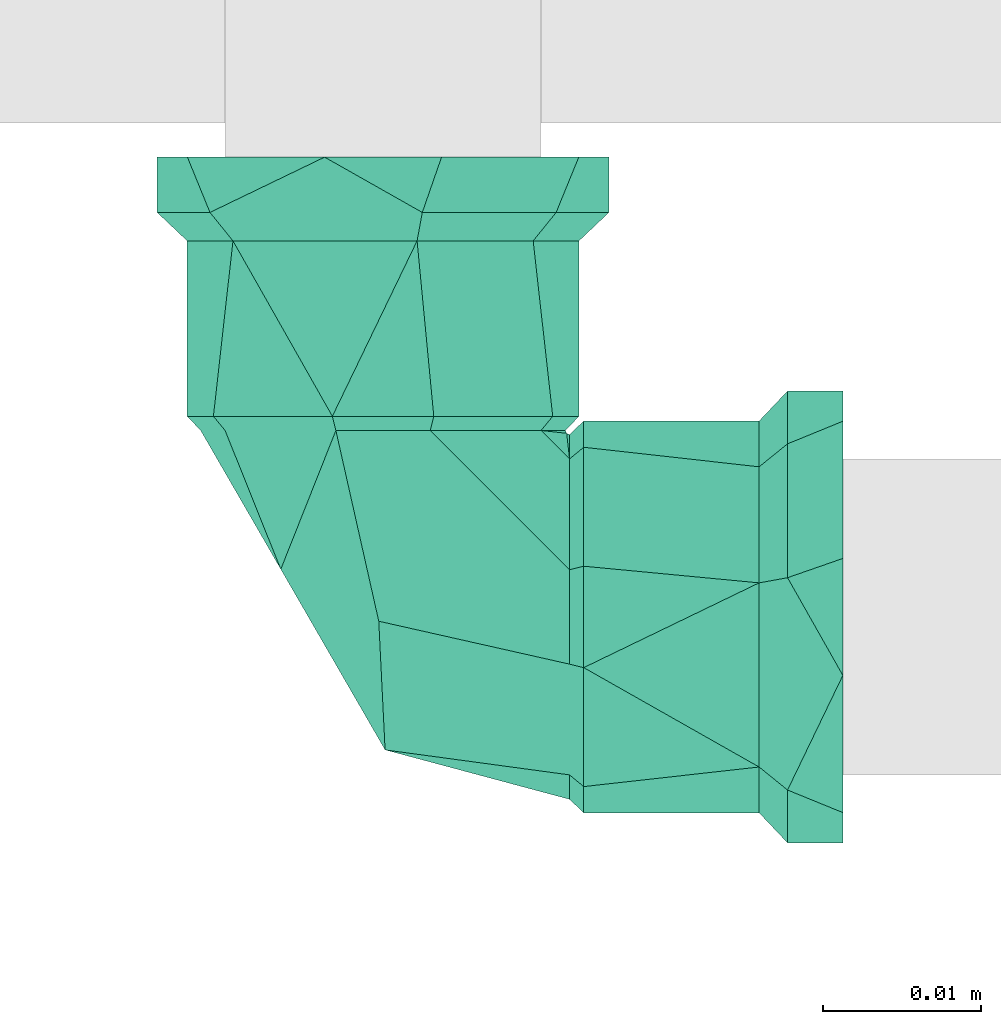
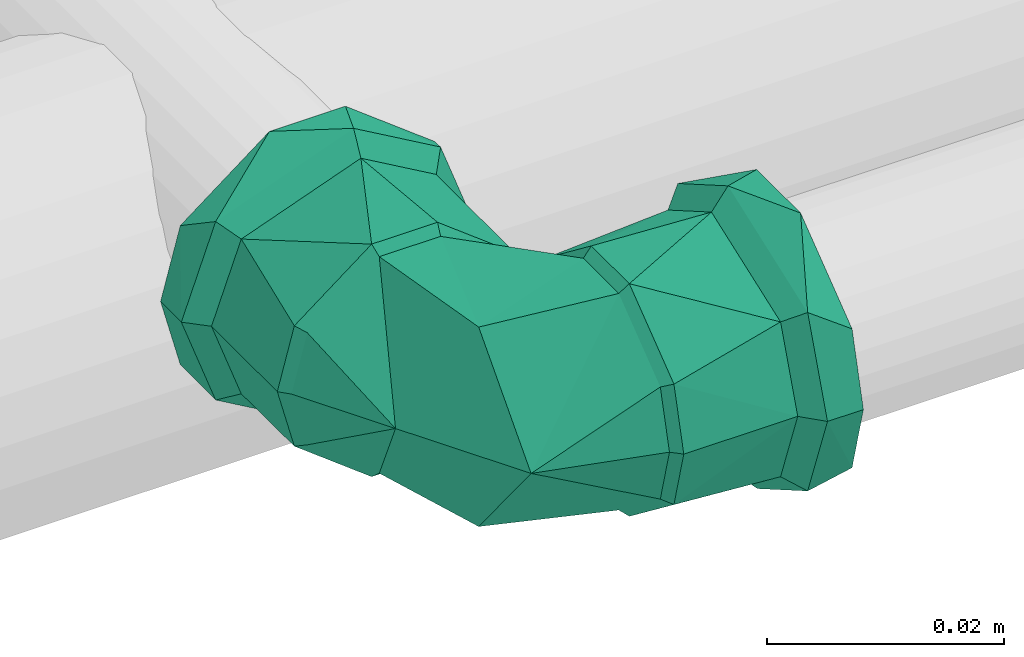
# One storey, part 308 of 589: 1 flow fitting.
"""IFC2X3 building model written with IfcOpenShell, lengths in millimetres."""

import ifcopenshell
import ifcopenshell.guid

model = None  # the IFC model being written
_history = None  # IfcOwnerHistory: only IFC2X3 demands one
_inside = {}  # id of a spatial element -> (the spatial element, [elements in it])
_under = {}  # id of a project, library or spatial element -> (it, [spatial elements below it])
_declared = {}  # id of a project -> (the project, [libraries it declares])
_typed = {}  # id of a type object -> (the type object, [elements of that type])
_made_of = {}  # id of a material, layer set ... -> (it, [elements and type objects made of it])


def new_model(schema):
    """Start an empty IFC model of exactly this schema.

    Asked for "IFC4X3", IfcOpenShell would pick the latest addendum, in which some entities
    have other attributes; the version numbers below select the first issue.
    IFC2X3 requires an IfcOwnerHistory on every rooted entity: one is made here for all.
    """
    global model, _history
    if schema == "IFC4X3":
        model = ifcopenshell.file(schema_version=(4, 3, 0, 0))
    else:
        model = ifcopenshell.file(schema=schema)
    _inside.clear()
    _under.clear()
    _declared.clear()
    _typed.clear()
    _made_of.clear()
    _history = None
    if model.schema == "IFC2X3":
        org = make("IfcOrganization", Name="unknown")
        user = make(
            "IfcPersonAndOrganization",
            ThePerson=make("IfcPerson", FamilyName="unknown"),
            TheOrganization=org,
        )
        app = make(
            "IfcApplication",
            ApplicationDeveloper=org,
            Version="unknown",
            ApplicationFullName="unknown",
            ApplicationIdentifier="unknown",
        )
        _history = make(
            "IfcOwnerHistory",
            OwningUser=user,
            OwningApplication=app,
            ChangeAction="ADDED",
            CreationDate=0,
        )
    return model


def make(cls, **values):
    """One entity of the class cls with the attributes given. An attribute that is None is left unset."""
    return model.create_entity(
        cls, **{name: value for name, value in values.items() if value is not None}
    )


def entity(cls, *values):
    """Any entity or typed value of the class cls, its attributes in the order of the schema. None: left unset."""
    e = model.create_entity(cls)
    for i, value in enumerate(values):
        if value is not None:
            e[i] = value
    return e


def rooted(cls, **values):
    """An entity with a GlobalId (a new one), such as an element, a storey or a relation."""
    return make(cls, GlobalId=ifcopenshell.guid.new(), OwnerHistory=_history, **values)


def si_unit(unit_type, name, prefix=None):
    """IfcSIUnit, for example si_unit("LENGTHUNIT", "METRE", prefix="MILLI")."""
    return make("IfcSIUnit", UnitType=unit_type, Prefix=prefix, Name=name)


def converted_unit(unit_type, name, factor, base, dimensions=None, offset=None):
    """IfcConversionBasedUnit, such as the inch: factor (a typed value) times the base unit."""
    return make(
        "IfcConversionBasedUnit"
        if offset is None
        else "IfcConversionBasedUnitWithOffset",
        ConversionOffset=offset,
        Dimensions=None
        if dimensions is None
        else entity("IfcDimensionalExponents", *dimensions),
        UnitType=unit_type,
        Name=name,
        ConversionFactor=make(
            "IfcMeasureWithUnit", ValueComponent=factor, UnitComponent=base
        ),
    )


def derived_unit(unit_type, elements):
    """IfcDerivedUnit: a product of units, each with its exponent."""
    return make(
        "IfcDerivedUnit",
        Elements=[
            make("IfcDerivedUnitElement", Unit=unit, Exponent=power)
            for unit, power in elements
        ],
        UnitType=unit_type,
    )


def assignment(units):
    """IfcUnitAssignment: the units of a project."""
    return None if units is None else make("IfcUnitAssignment", Units=units)


def point(xyz):
    """IfcCartesianPoint."""
    return None if xyz is None else make("IfcCartesianPoint", Coordinates=xyz)


def direction(xyz):
    """IfcDirection."""
    return None if xyz is None else make("IfcDirection", DirectionRatios=xyz)


def frame(location, z_axis=None, x_axis=None):
    """IfcAxis2Placement3D, a coordinate frame: its origin and axes. An axis left out is left unset."""
    return make(
        "IfcAxis2Placement3D",
        Location=point(location),
        Axis=direction(z_axis),
        RefDirection=direction(x_axis),
    )


def origin():
    """The frame at (0, 0, 0) with its axes left unset."""
    return frame((0.0, 0.0, 0.0))


def place(relative_to, where):
    """IfcLocalPlacement: puts the frame where relative to a parent placement (None: the world)."""
    return make(
        "IfcLocalPlacement", PlacementRelTo=relative_to, RelativePlacement=where
    )


def context(
    kind, dimensions, precision=None, world=None, true_north=None, identifier=None
):
    """IfcGeometricRepresentationContext, for example the 3D "Model" context."""
    return make(
        "IfcGeometricRepresentationContext",
        ContextIdentifier=identifier,
        ContextType=kind,
        CoordinateSpaceDimension=dimensions,
        Precision=precision,
        WorldCoordinateSystem=world,
        TrueNorth=true_north,
    )


def subcontext(parent, identifier, kind, view, scale=None):
    """IfcGeometricRepresentationSubContext, for example "Body" below "Model"."""
    return make(
        "IfcGeometricRepresentationSubContext",
        ContextIdentifier=identifier,
        ContextType=kind,
        ParentContext=parent,
        TargetScale=scale,
        TargetView=view,
    )


def project(units=None, contexts=None):
    """IfcProject with its units and contexts."""
    return rooted(
        "IfcProject",
        Name="project",
        RepresentationContexts=contexts,
        UnitsInContext=assignment(units),
    )


def spatial(cls, under=None, at=None, **own):
    """A site, building, storey or space (cls), placed at a placement, below another one or the project."""
    s = rooted(cls, ObjectPlacement=at, **own)
    if under is not None:
        _under.setdefault(under.id(), (under, []))[1].append(s)
    return s


def faces_of(points, faces, orient=None, outer=None):
    """IfcFace entities. A face is a list of loops; a loop is a list of indices into points, from 0.

    orient and outer hold one flag for each loop. By default every Orientation is true, the
    first loop of a face is its IfcFaceOuterBound and the others are IfcFaceBound.
    """
    made = []
    for i, loops in enumerate(faces):
        bounds = []
        for j, loop in enumerate(loops):
            is_outer = j == 0 if outer is None else outer[i][j]
            bounds.append(
                make(
                    "IfcFaceOuterBound" if is_outer else "IfcFaceBound",
                    Bound=make("IfcPolyLoop", Polygon=[points[k] for k in loop]),
                    Orientation=True if orient is None else orient[i][j],
                )
            )
        made.append(make("IfcFace", Bounds=bounds))
    return made


def faceted_brep(points, faces, orient=None, outer=None, voids=None):
    """IfcFacetedBrep: a solid bounded by flat faces; with voids (closed shells), ...WithVoids."""
    shared = [point(p) for p in points]
    hull = make("IfcClosedShell", CfsFaces=faces_of(shared, faces, orient, outer))
    if voids is None:
        return make("IfcFacetedBrep", Outer=hull)
    return make(
        "IfcFacetedBrepWithVoids",
        Outer=hull,
        Voids=[
            make(cls, CfsFaces=faces_of(shared, fs, o, b)) for cls, fs, o, b in voids
        ],
    )


def shape(context_of_items, identifier, shape_type, items):
    """IfcShapeRepresentation: the items that make up one representation, for example the "Body"."""
    return make(
        "IfcShapeRepresentation",
        ContextOfItems=context_of_items,
        RepresentationIdentifier=identifier,
        RepresentationType=shape_type,
        Items=items,
    )


def source(mapping_origin, context_of_items, identifier, shape_type, items):
    """IfcRepresentationMap: a shape defined once, which mapped items show again and again."""
    return make(
        "IfcRepresentationMap",
        MappingOrigin=mapping_origin,
        MappedRepresentation=shape(context_of_items, identifier, shape_type, items),
    )


def transform(
    local_origin,
    x_axis=None,
    y_axis=None,
    z_axis=None,
    scale=None,
    scale2=None,
    scale3=None,
    uniform=True,
):
    """IfcCartesianTransformationOperator3D, or its non-uniform kind. x_axis, y_axis, z_axis: its Axis1, 2, 3."""
    if uniform:
        return make(
            "IfcCartesianTransformationOperator3D",
            Axis1=direction(x_axis),
            Axis2=direction(y_axis),
            LocalOrigin=point(local_origin),
            Scale=scale,
            Axis3=direction(z_axis),
        )
    return make(
        "IfcCartesianTransformationOperator3DnonUniform",
        Axis1=direction(x_axis),
        Axis2=direction(y_axis),
        LocalOrigin=point(local_origin),
        Scale=scale,
        Axis3=direction(z_axis),
        Scale2=scale2,
        Scale3=scale3,
    )


def mapped(mapping_source, mapping_target):
    """IfcMappedItem: shows the shape of a source again, moved by a transform."""
    return make(
        "IfcMappedItem", MappingSource=mapping_source, MappingTarget=mapping_target
    )


def material(Name=None, Category=None):
    """IfcMaterial."""
    return make("IfcMaterial", Name=Name, Category=Category)


def made_of(thing, what):
    """Note that an element or type object is made of a material, layer set ...; save() writes the relation."""
    if what is not None:
        _made_of.setdefault(what.id(), (what, []))[1].append(thing)
    return thing


def type_object(cls, material=None, **own):
    """A type object (cls), such as IfcWallType, which elements share."""
    return made_of(rooted(cls, **own), material)


def type_shapes(of_type, sources):
    """Give a type object the sources (RepresentationMaps) that its elements show as mapped items."""
    of_type.RepresentationMaps = sources


def element(
    cls,
    number,
    at=None,
    inside=None,
    cuts=None,
    type_object=None,
    material=None,
    context=None,
    identifier="Body",
    shape_type=None,
    held_by="IfcProductDefinitionShape",
    body=None,
    shapes=None,
    **own,
):
    """One element of the class cls, such as IfcWall. Its Tag is "e" and its number.

    at: its placement. inside: the storey or other place that contains it. cuts: it is an
    opening in that element (IfcRelVoidsElement). A single representation is given by context,
    identifier, shape_type and body (its items); several are given by shapes. held_by: the class
    of the entity that holds the representations. save() writes the other relations.
    """
    e = rooted(cls, Tag="e%d" % number, ObjectPlacement=at, **own)
    if body is not None:
        shapes = [shape(context, identifier, shape_type, body)]
    if shapes is not None:
        e.Representation = make(held_by, Representations=shapes)
    if inside is not None:
        _inside.setdefault(inside.id(), (inside, []))[1].append(e)
    if cuts is not None:
        rooted(
            "IfcRelVoidsElement", RelatingBuildingElement=cuts, RelatedOpeningElement=e
        )
    if type_object is not None:
        _typed.setdefault(type_object.id(), (type_object, []))[1].append(e)
    return made_of(e, material)


def aggregate(whole, parts):
    """IfcRelAggregates: a whole, such as a stair, and the parts it consists of."""
    return rooted("IfcRelAggregates", RelatingObject=whole, RelatedObjects=parts)


def save(model, path):
    """Write the relations noted so far, then the file.

    IfcRelAggregates (storeys below a building ...), IfcRelContainedInSpatialStructure (elements
    in a storey), IfcRelDefinesByType, IfcRelAssociatesMaterial and IfcRelDeclares: one each for
    every whole, place, type object, material and project.
    """
    for whole, parts in _under.values():
        aggregate(whole, parts)
    for where, things in _inside.values():
        rooted(
            "IfcRelContainedInSpatialStructure",
            RelatedElements=things,
            RelatingStructure=where,
        )
    for kind, things in _typed.values():
        rooted("IfcRelDefinesByType", RelatedObjects=things, RelatingType=kind)
    for what, things in _made_of.values():
        rooted("IfcRelAssociatesMaterial", RelatedObjects=things, RelatingMaterial=what)
    for by, libraries in _declared.values():
        rooted("IfcRelDeclares", RelatingContext=by, RelatedDefinitions=libraries)
    model.write(path)


model = new_model("IFC2X3")

# Units and contexts
model_context = context("Model", 3, precision=0.01, world=origin(), true_north=direction((6.123031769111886e-17, 1.0)))
body_context = subcontext(model_context, "Body", "Model", "MODEL_VIEW")
ifc_project = project(units=[si_unit("LENGTHUNIT", "METRE", prefix="MILLI"), si_unit("AREAUNIT", "SQUARE_METRE"), si_unit("VOLUMEUNIT", "CUBIC_METRE"), converted_unit("PLANEANGLEUNIT", "DEGREE", entity("IfcRatioMeasure", 0.017453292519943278), si_unit("PLANEANGLEUNIT", "RADIAN"), dimensions=[0, 0, 0, 0, 0, 0, 0]), si_unit("MASSUNIT", "GRAM", prefix="KILO"), derived_unit("MASSDENSITYUNIT", [(si_unit("MASSUNIT", "GRAM", prefix="KILO"), 1), (si_unit("LENGTHUNIT", "METRE"), -3)]), derived_unit("IONCONCENTRATIONUNIT", [(si_unit("MASSUNIT", "GRAM", prefix="KILO"), 1), (si_unit("LENGTHUNIT", "METRE"), -3)]), derived_unit("MOMENTOFINERTIAUNIT", [(si_unit("LENGTHUNIT", "METRE"), 4)]), si_unit("TIMEUNIT", "SECOND"), si_unit("FREQUENCYUNIT", "HERTZ"), si_unit("THERMODYNAMICTEMPERATUREUNIT", "DEGREE_CELSIUS"), derived_unit("THERMALTRANSMITTANCEUNIT", [(si_unit("MASSUNIT", "GRAM", prefix="KILO"), 1), (si_unit("THERMODYNAMICTEMPERATUREUNIT", "KELVIN"), -1), (si_unit("TIMEUNIT", "SECOND"), -3)]), derived_unit("THERMALCONDUCTANCEUNIT", [(si_unit("MASSUNIT", "GRAM", prefix="KILO"), 1), (si_unit("THERMODYNAMICTEMPERATUREUNIT", "KELVIN"), -1), (si_unit("TIMEUNIT", "SECOND"), -3), (si_unit("LENGTHUNIT", "METRE"), 1)]), derived_unit("VOLUMETRICFLOWRATEUNIT", [(si_unit("LENGTHUNIT", "METRE"), 3), (si_unit("TIMEUNIT", "SECOND"), -1)]), derived_unit("MASSFLOWRATEUNIT", [(si_unit("MASSUNIT", "GRAM", prefix="KILO"), 1), (si_unit("TIMEUNIT", "SECOND"), -1)]), derived_unit("ROTATIONALFREQUENCYUNIT", [(si_unit("TIMEUNIT", "SECOND"), -1)]), si_unit("ELECTRICCURRENTUNIT", "AMPERE"), si_unit("ELECTRICVOLTAGEUNIT", "VOLT"), si_unit("POWERUNIT", "WATT"), si_unit("FORCEUNIT", "NEWTON", prefix="KILO"), si_unit("ILLUMINANCEUNIT", "LUX"), si_unit("LUMINOUSFLUXUNIT", "LUMEN"), si_unit("LUMINOUSINTENSITYUNIT", "CANDELA"), derived_unit("USERDEFINED", [(si_unit("MASSUNIT", "GRAM", prefix="KILO"), -1), (si_unit("LENGTHUNIT", "METRE"), -2), (si_unit("TIMEUNIT", "SECOND"), 3), (si_unit("LUMINOUSFLUXUNIT", "LUMEN"), 1)]), derived_unit("USERDEFINED", [(si_unit("MASSUNIT", "GRAM", prefix="KILO"), 1), (si_unit("TIMEUNIT", "SECOND"), -3), (si_unit("LENGTHUNIT", "METRE"), 3), (si_unit("ELECTRICCURRENTUNIT", "AMPERE"), -2)]), derived_unit("SOUNDPOWERUNIT", [(si_unit("MASSUNIT", "GRAM", prefix="KILO"), 1), (si_unit("TIMEUNIT", "SECOND"), -3), (si_unit("LENGTHUNIT", "METRE"), 2)]), derived_unit("SOUNDPRESSUREUNIT", [(si_unit("MASSUNIT", "GRAM", prefix="KILO"), 1), (si_unit("LENGTHUNIT", "METRE"), -1), (si_unit("TIMEUNIT", "SECOND"), -2)]), derived_unit("LINEARVELOCITYUNIT", [(si_unit("LENGTHUNIT", "METRE"), 1), (si_unit("TIMEUNIT", "SECOND"), -1)]), si_unit("PRESSUREUNIT", "PASCAL"), derived_unit("USERDEFINED", [(si_unit("MASSUNIT", "GRAM", prefix="KILO"), 1), (si_unit("LENGTHUNIT", "METRE"), -2), (si_unit("TIMEUNIT", "SECOND"), -2)]), derived_unit("LINEARFORCEUNIT", [(si_unit("MASSUNIT", "GRAM", prefix="KILO"), 1), (si_unit("TIMEUNIT", "SECOND"), -2)]), derived_unit("PLANARFORCEUNIT", [(si_unit("MASSUNIT", "GRAM", prefix="KILO"), 1), (si_unit("LENGTHUNIT", "METRE"), -1), (si_unit("TIMEUNIT", "SECOND"), -2)]), derived_unit("SPECIFICHEATCAPACITYUNIT", [(si_unit("THERMODYNAMICTEMPERATUREUNIT", "KELVIN"), -1), (si_unit("LENGTHUNIT", "METRE"), 2), (si_unit("TIMEUNIT", "SECOND"), -2)]), derived_unit("HEATINGVALUEUNIT", [(si_unit("LENGTHUNIT", "METRE"), 2), (si_unit("TIMEUNIT", "SECOND"), -2)]), derived_unit("VAPORPERMEABILITYUNIT", [(si_unit("LENGTHUNIT", "METRE"), -1), (si_unit("TIMEUNIT", "SECOND"), 1)]), derived_unit("DYNAMICVISCOSITYUNIT", [(si_unit("MASSUNIT", "GRAM", prefix="KILO"), 1), (si_unit("TIMEUNIT", "SECOND"), -1), (si_unit("LENGTHUNIT", "METRE"), -1)]), derived_unit("THERMALEXPANSIONCOEFFICIENTUNIT", [(si_unit("THERMODYNAMICTEMPERATUREUNIT", "KELVIN"), -1)]), derived_unit("MODULUSOFELASTICITYUNIT", [(si_unit("MASSUNIT", "GRAM", prefix="KILO"), 1), (si_unit("LENGTHUNIT", "METRE"), -1), (si_unit("TIMEUNIT", "SECOND"), -2)]), derived_unit("ISOTHERMALMOISTURECAPACITYUNIT", [(si_unit("LENGTHUNIT", "METRE"), 3), (si_unit("MASSUNIT", "GRAM", prefix="KILO"), -1)]), derived_unit("MOISTUREDIFFUSIVITYUNIT", [(si_unit("TIMEUNIT", "SECOND"), -1), (si_unit("LENGTHUNIT", "METRE"), 2)])], contexts=[model_context])

# Site, building, storey
site_placement = place(None, origin())
site = spatial("IfcSite", under=ifc_project, at=site_placement, Name="Default", CompositionType="ELEMENT")
building_placement = place(site_placement, origin())
building = spatial("IfcBuilding", under=site, at=building_placement, CompositionType="ELEMENT")
storey_placement = place(building_placement, frame((0.0, 0.0, 100.0)))
storey = spatial("IfcBuildingStorey", under=building, at=storey_placement, Name="TÉRREO", CompositionType="ELEMENT", Elevation=100.0)

# Flow fitting
ifc_material = material(Name="PVC Marrom")
pipe_fitting_type = type_object("IfcPipeFittingType", Name="PVC Marrom Soldável_Joelho 45°_90°_Rodrigo MEP:Joelho", PredefinedType="NOTDEFINED", material=ifc_material)
shared_shape = source(origin(), body_context, "Body", "Brep", [
    faceted_brep([(3.2093561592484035, 12.700000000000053, 11.977480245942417), (10.73871500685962, 12.700000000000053, 6.199999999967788), (12.399999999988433, 12.700000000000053, 0.0), (10.738715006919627, 12.700000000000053, -6.200000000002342), (3.209356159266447, 12.700000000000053, -11.977480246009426), (-3.209356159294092, 12.700000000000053, -11.977480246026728), (-10.738715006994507, 12.700000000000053, -6.200000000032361), (-12.400000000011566, 12.700000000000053, 0.0), (-10.738715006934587, 12.700000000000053, 6.19999999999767), (-3.209356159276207, 12.700000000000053, 11.977480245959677), (-2.9880658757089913, 11.799999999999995, 11.151613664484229), (-9.998263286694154, 11.799999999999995, 5.772499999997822), (-11.545000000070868, 11.799999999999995, 0.0), (-9.998263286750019, 11.799999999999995, -5.772500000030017), (-2.9880658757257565, 11.799999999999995, -11.151613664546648), (2.9880658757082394, 11.799999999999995, -11.151613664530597), (9.998263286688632, 11.799999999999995, -5.77250000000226), (11.544999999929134, 11.799999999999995, 0.0), (9.998263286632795, 11.799999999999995, 5.7724999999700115), (2.9880658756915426, 11.799999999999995, 11.15161366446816)], [[[0, 1, 2, 3, 4, 5, 6, 7, 8, 9]], [[10, 11, 12, 13, 14, 15, 16, 17, 18, 19]], [[3, 17, 16]], [[4, 3, 16, 15]], [[3, 2, 17]], [[15, 14, 5, 4]], [[6, 5, 14, 13]], [[7, 13, 12]], [[7, 6, 13]], [[8, 12, 11]], [[9, 8, 11, 10]], [[8, 7, 12]], [[10, 19, 0, 9]], [[1, 0, 19, 18]], [[2, 18, 17]], [[2, 1, 18]]]),
    faceted_brep([(-12.699999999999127, 12.4, 0.0), (-12.699999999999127, 10.738715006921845, -6.199999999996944), (-12.699999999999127, 3.2093561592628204, -11.977480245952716), (-12.699999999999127, -3.2093561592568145, -11.977480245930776), (-12.699999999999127, -10.73871500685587, -6.199999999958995), (-12.699999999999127, -12.4, 0.0), (-12.699999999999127, -10.738715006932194, 6.200000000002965), (-12.699999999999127, -3.2093561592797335, 11.977480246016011), (-12.699999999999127, 3.20935615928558, 11.977480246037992), (-12.699999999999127, 10.738715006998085, 6.200000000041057), (-11.799999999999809, -9.998263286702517, 5.772500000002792), (-11.799999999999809, -11.54499999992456, 0.0), (-11.799999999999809, -9.998263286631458, -5.772499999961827), (-11.799999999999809, -2.9880658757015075, -11.151613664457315), (-11.799999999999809, 2.9880658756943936, -11.151613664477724), (-11.799999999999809, 9.998263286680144, -5.772499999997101), (-11.799999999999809, 11.54500000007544, 0.0), (-11.799999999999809, 9.998263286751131, 5.772500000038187), (-11.799999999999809, 2.988065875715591, 11.151613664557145), (-11.799999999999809, -2.9880658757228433, 11.151613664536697)], [[[0, 1, 2, 3, 4, 5, 6, 7, 8, 9]], [[10, 11, 12, 13, 14, 15, 16, 17, 18, 19]], [[1, 16, 15]], [[2, 1, 15, 14]], [[1, 0, 16]], [[14, 13, 3, 2]], [[4, 3, 13, 12]], [[5, 12, 11]], [[5, 4, 12]], [[6, 11, 10]], [[7, 6, 10, 19]], [[6, 5, 11]], [[19, 18, 8, 7]], [[9, 8, 18, 17]], [[0, 17, 16]], [[0, 9, 17]]]),
    faceted_brep([(-29.099999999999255, -3.7011123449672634, -13.812739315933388), (-29.099999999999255, -5.0, -8.660254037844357), (-29.099999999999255, 0.0, -10.0), (-29.099999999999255, -12.384163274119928, -7.149999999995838), (-29.099999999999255, 3.7011123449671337, -13.812739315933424), (-29.099999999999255, -9.659258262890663, -2.5881904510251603), (-29.099999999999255, -14.29999999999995, 0.0), (-29.099999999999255, -9.65925826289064, 2.5881904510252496), (-29.099999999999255, -12.384163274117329, 7.1500000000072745), (-29.099999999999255, -5.0, 8.660254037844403), (-29.099999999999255, -3.70111234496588, 13.8127393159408), (-29.099999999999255, 0.0, 10.0), (-29.099999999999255, 3.701112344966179, 13.812739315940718), (-29.099999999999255, 5.0, 8.660254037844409), (-29.099999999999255, 12.384163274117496, 7.15000000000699), (-29.099999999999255, 9.6592582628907, 2.588190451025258), (-29.099999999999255, 14.300000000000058, 0.0), (-29.099999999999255, 9.659258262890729, -2.5881904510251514), (-29.099999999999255, 12.384163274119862, -7.1499999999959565), (-29.099999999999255, 5.0, -8.660254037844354), (-25.599999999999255, 14.29999999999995, 0.0), (-25.599999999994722, 10.953923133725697, 9.19247344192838), (-25.599999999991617, 2.4815988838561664, 14.083027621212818), (-25.59999999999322, -10.956228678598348, 9.18972541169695), (-25.599999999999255, -14.29999999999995, 0.0), (-25.600000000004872, -10.956228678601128, -9.189725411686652), (-25.600000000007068, -2.4851314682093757, -14.082404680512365), (-25.600000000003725, 10.953923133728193, -9.192473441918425), (-23.799999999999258, -12.399999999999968, 0.0), (-23.79999999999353, -9.500505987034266, 7.968712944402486), (-23.799999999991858, 2.151875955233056, 12.211856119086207), (-23.799999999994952, 9.49850677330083, 7.971095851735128), (-23.799999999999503, 12.399999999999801, 0.0), (-23.799999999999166, 9.498506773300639, -7.971095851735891), (-23.799999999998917, -2.1549391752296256, -12.211315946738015), (-23.7999999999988, -9.500505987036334, -7.968712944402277), (-12.699999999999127, 0.0, -10.0), (-12.699999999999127, -5.0, -8.660254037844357), (-12.699999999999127, -3.209356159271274, -11.977480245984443), (-12.699999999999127, 3.2093561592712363, -11.977480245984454), (-12.699999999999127, 5.0, -8.660254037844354), (-12.699999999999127, -10.738715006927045, -6.199999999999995), (-12.699999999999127, -9.659258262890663, -2.5881904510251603), (-12.699999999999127, -12.400000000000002, 0.0), (-12.699999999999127, -9.65925826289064, 2.5881904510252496), (-12.699999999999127, -10.738715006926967, 6.200000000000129), (-12.699999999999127, -5.0, 8.660254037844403), (-12.699999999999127, -3.209356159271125, 11.977480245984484), (-12.699999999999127, 0.0, 10.0), (-12.699999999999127, 3.209356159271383, 11.977480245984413), (-12.699999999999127, 5.0, 8.660254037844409), (-12.699999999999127, 10.738715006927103, 6.199999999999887), (-12.699999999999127, 9.6592582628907, 2.588190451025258), (-12.699999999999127, 12.399999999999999, 0.0), (-12.699999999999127, 9.659258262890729, -2.5881904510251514), (-12.699999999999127, 10.738715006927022, -6.200000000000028)], [[[0, 1, 2]], [[1, 0, 3]], [[2, 4, 0]], [[3, 5, 1]], [[3, 6, 5]], [[5, 6, 7]], [[8, 7, 6]], [[7, 8, 9]], [[10, 9, 8]], [[9, 10, 11]], [[11, 10, 12]], [[12, 13, 11]], [[14, 13, 12]], [[13, 14, 15]], [[16, 15, 14]], [[16, 17, 15]], [[18, 17, 16]], [[19, 17, 18]], [[19, 18, 4]], [[4, 2, 19]], [[16, 14, 20]], [[14, 21, 20]], [[21, 14, 12]], [[21, 12, 22]], [[23, 10, 8]], [[24, 8, 6]], [[10, 23, 22]], [[23, 8, 24]], [[10, 22, 12]], [[6, 3, 24]], [[3, 25, 24]], [[25, 3, 0]], [[25, 0, 26]], [[27, 4, 18]], [[20, 18, 16]], [[27, 26, 4]], [[20, 27, 18]], [[4, 26, 0]], [[28, 29, 23, 24]], [[23, 29, 30, 22]], [[31, 32, 20, 21]], [[31, 21, 22, 30]], [[32, 33, 27, 20]], [[27, 33, 34, 26]], [[35, 28, 24, 25]], [[35, 25, 26, 34]], [[36, 37, 38]], [[38, 39, 36]], [[40, 36, 39]], [[41, 38, 37]], [[37, 42, 41]], [[42, 43, 41]], [[44, 43, 42]], [[43, 44, 45]], [[46, 45, 44]], [[45, 46, 47]], [[48, 47, 46]], [[49, 47, 48]], [[48, 50, 49]], [[49, 50, 51]], [[52, 51, 50]], [[51, 52, 53]], [[52, 54, 53]], [[55, 54, 40]], [[53, 54, 55]], [[39, 55, 40]], [[32, 31, 51]], [[32, 51, 53]], [[51, 31, 49]], [[31, 30, 49]], [[47, 30, 29]], [[45, 29, 28]], [[29, 45, 47]], [[45, 28, 43]], [[30, 47, 49]], [[28, 35, 41]], [[28, 41, 43]], [[41, 35, 38]], [[35, 34, 38]], [[39, 34, 33]], [[55, 33, 32]], [[33, 55, 39]], [[55, 32, 53]], [[34, 39, 38]], [[9, 11, 48, 46]], [[7, 9, 46, 44]], [[44, 42, 5, 7]], [[1, 5, 42, 37]], [[2, 1, 37, 36]], [[19, 2, 36, 40]], [[17, 19, 40, 54]], [[54, 52, 15, 17]], [[13, 15, 52, 50]], [[11, 13, 50, 48]]]),
    faceted_brep([(-11.79999999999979, 2.9880658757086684, -11.15161366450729), (-11.799999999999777, -2.988065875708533, -11.1516136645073), (-11.799999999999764, -9.998263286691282, -5.772500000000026), (-11.799999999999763, -11.544999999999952, 0.0), (-11.799999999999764, -9.998263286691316, 5.772499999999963), (-11.799999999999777, -2.988065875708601, 11.15161366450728), (-11.79999999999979, 2.9880658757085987, 11.151613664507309), (-11.799999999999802, 9.998263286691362, 5.7725000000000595), (-11.799999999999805, 11.545000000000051, 0.0), (-11.799999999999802, 9.9982632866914, -5.7724999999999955), (9.998263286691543, 11.79999999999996, 5.772499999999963), (11.545000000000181, 11.799999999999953, 0.0), (9.99826328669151, 11.79999999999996, -5.772500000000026), (2.9880658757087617, 11.79999999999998, -11.1516136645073), (-2.98806587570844, 11.8, -11.15161366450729), (-9.998263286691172, 11.800000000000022, -5.7724999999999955), (-11.544999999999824, 11.80000000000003, 0.0), (-9.998263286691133, 11.800000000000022, 5.7725000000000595), (-2.98806587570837, 11.8, 11.151613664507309), (2.988065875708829, 11.79999999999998, 11.15161366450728), (0.2725483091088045, -0.2725494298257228, 10.270383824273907), (-3.0173304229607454, -6.474323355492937, 0.0), (-11.619687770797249, 11.619687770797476, 0.0), (8.417363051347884, 0.12750000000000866, 0.0), (0.27254830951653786, -0.27254942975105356, -10.270383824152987)], [[[0, 1, 2, 3, 4, 5, 6, 7, 8, 9]], [[10, 11, 12, 13, 14, 15, 16, 17, 18, 19]], [[5, 20, 6]], [[21, 5, 4]], [[4, 3, 21]], [[22, 7, 17]], [[22, 8, 7]], [[17, 7, 6, 18]], [[23, 19, 20]], [[23, 20, 21]], [[23, 11, 10]], [[23, 10, 19]], [[22, 17, 16]], [[21, 20, 5]], [[20, 18, 6]], [[19, 18, 20]], [[9, 8, 22]], [[13, 23, 24]], [[0, 9, 15, 14]], [[1, 24, 21]], [[0, 14, 24]], [[2, 21, 3]], [[9, 22, 15]], [[1, 21, 2]], [[13, 24, 14]], [[23, 13, 12]], [[0, 24, 1]], [[12, 11, 23]], [[21, 24, 23]], [[15, 22, 16]]]),
    faceted_brep([(0.0, 12.700000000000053, -10.0), (-5.0, 12.700000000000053, -8.660254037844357), (-3.20935615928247, 12.700000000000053, -11.977480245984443), (3.2093561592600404, 12.700000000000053, -11.977480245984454), (5.0, 12.700000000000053, -8.660254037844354), (-10.73871500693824, 12.700000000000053, -6.199999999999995), (-9.659258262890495, 12.700000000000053, -2.5881904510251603), (-12.400000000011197, 12.700000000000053, 0.0), (-9.65925826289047, 12.700000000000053, 2.5881904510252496), (-10.738715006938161, 12.700000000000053, 6.200000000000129), (-5.0, 12.700000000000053, 8.660254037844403), (-3.2093561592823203, 12.700000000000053, 11.977480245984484), (0.0, 12.700000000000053, 10.0), (3.209356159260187, 12.700000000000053, 11.977480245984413), (5.0, 12.700000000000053, 8.660254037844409), (10.738715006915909, 12.700000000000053, 6.199999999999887), (9.65925826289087, 12.700000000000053, 2.588190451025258), (12.399999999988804, 12.700000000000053, 0.0), (9.659258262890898, 12.700000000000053, -2.5881904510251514), (10.738715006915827, 12.700000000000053, -6.200000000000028), (12.399999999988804, 23.800000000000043, 0.0), (9.498506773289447, 23.79999999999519, 7.971095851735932), (-2.1549391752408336, 23.799999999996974, 12.211315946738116), (-9.500505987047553, 23.80000000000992, 7.9687129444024), (-12.400000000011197, 23.800000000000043, 0.0), (-9.500505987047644, 23.799999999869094, -7.968712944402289), (2.1518759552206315, 23.7999999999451, -12.211856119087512), (9.49850677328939, 23.79999999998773, -7.971095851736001), (-10.953923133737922, 25.60000000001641, 9.192473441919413), (-14.300000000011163, 25.600000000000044, 0.0), (-2.481598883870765, 25.60000000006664, 14.083027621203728), (10.956228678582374, 25.600000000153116, 9.189725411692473), (14.299999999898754, 25.600000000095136, 0.0), (10.95622867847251, 25.59999999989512, -9.189725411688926), (2.485131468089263, 25.599999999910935, -14.082404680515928), (-10.953923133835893, 25.599999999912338, -9.192473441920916), (-3.701112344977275, 29.100000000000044, -13.812739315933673), (-5.0, 29.100000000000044, -8.660254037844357), (0.0, 29.100000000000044, -10.0), (-12.384163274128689, 29.100000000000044, -7.149999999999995), (3.7011123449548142, 29.100000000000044, -13.812739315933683), (-9.659258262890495, 29.100000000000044, -2.5881904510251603), (-14.300000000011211, 29.100000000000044, 0.0), (-9.65925826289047, 29.100000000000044, 2.5881904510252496), (-12.384163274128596, 29.100000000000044, 7.1500000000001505), (-5.0, 29.100000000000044, 8.660254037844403), (-3.7011123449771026, 29.100000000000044, 13.81273931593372), (0.0, 29.100000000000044, 10.0), (3.7011123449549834, 29.100000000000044, 13.812739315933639), (5.0, 29.100000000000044, 8.660254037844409), (12.38416327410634, 29.100000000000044, 7.149999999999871), (9.65925826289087, 29.100000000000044, 2.588190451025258), (14.299999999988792, 29.100000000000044, 0.0), (9.659258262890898, 29.100000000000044, -2.5881904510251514), (12.384163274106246, 29.100000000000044, -7.150000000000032), (5.0, 29.100000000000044, -8.660254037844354)], [[[0, 1, 2]], [[2, 3, 0]], [[4, 0, 3]], [[5, 2, 1]], [[1, 6, 5]], [[6, 7, 5]], [[8, 7, 6]], [[7, 8, 9]], [[10, 9, 8]], [[9, 10, 11]], [[12, 11, 10]], [[13, 11, 12]], [[12, 14, 13]], [[13, 14, 15]], [[16, 15, 14]], [[15, 16, 17]], [[16, 18, 17]], [[19, 18, 4]], [[17, 18, 19]], [[3, 19, 4]], [[20, 21, 15]], [[20, 15, 17]], [[15, 21, 13]], [[21, 22, 13]], [[11, 22, 23]], [[9, 23, 24]], [[23, 9, 11]], [[9, 24, 7]], [[22, 11, 13]], [[24, 25, 5]], [[24, 5, 7]], [[5, 25, 2]], [[25, 26, 2]], [[3, 26, 27]], [[19, 27, 20]], [[27, 19, 3]], [[19, 20, 17]], [[26, 3, 2]], [[23, 22, 28]], [[24, 23, 29]], [[29, 23, 28]], [[22, 30, 28]], [[21, 20, 31]], [[31, 30, 21]], [[32, 31, 20]], [[21, 30, 22]], [[20, 27, 33]], [[33, 32, 20]], [[34, 33, 27]], [[27, 26, 34]], [[25, 24, 29]], [[25, 35, 26]], [[35, 25, 29]], [[26, 35, 34]], [[36, 37, 38]], [[37, 36, 39]], [[38, 40, 36]], [[39, 41, 37]], [[39, 42, 41]], [[41, 42, 43]], [[44, 43, 42]], [[43, 44, 45]], [[46, 45, 44]], [[45, 46, 47]], [[47, 46, 48]], [[48, 49, 47]], [[50, 49, 48]], [[49, 50, 51]], [[52, 51, 50]], [[52, 53, 51]], [[54, 53, 52]], [[55, 53, 54]], [[55, 54, 40]], [[40, 38, 55]], [[52, 50, 32]], [[50, 31, 32]], [[31, 50, 48]], [[31, 48, 30]], [[28, 46, 44]], [[29, 44, 42]], [[46, 28, 30]], [[28, 44, 29]], [[46, 30, 48]], [[42, 39, 29]], [[39, 35, 29]], [[35, 39, 36]], [[35, 36, 34]], [[33, 40, 54]], [[32, 54, 52]], [[40, 33, 34]], [[33, 54, 32]], [[40, 34, 36]], [[45, 47, 12, 10]], [[43, 45, 10, 8]], [[8, 6, 41, 43]], [[37, 41, 6, 1]], [[38, 37, 1, 0]], [[55, 38, 0, 4]], [[53, 55, 4, 18]], [[18, 16, 51, 53]], [[49, 51, 16, 14]], [[47, 49, 14, 12]]]),
])
type_shapes(pipe_fitting_type, [shared_shape])
flow_fitting_placement = place(storey_placement, frame((-6387.395534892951, -7753.615281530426, -104.85493019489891), z_axis=(0.0, 0.0, 1.0), x_axis=(0.0, -1.0, 0.0)))
element("IfcFlowFitting", 1, at=flow_fitting_placement, inside=storey, type_object=pipe_fitting_type, material=ifc_material, Name="PVC Marrom Soldável_Joelho 45°_90°_Rodrigo MEP:Joelho", ObjectType="PVC Marrom Soldável_Joelho 45°_90°_Rodrigo MEP:Joelho", context=body_context, shape_type="MappedRepresentation", body=[
    mapped(shared_shape, transform((0.0, 0.0, 0.0), scale=1.0)),
])

save(model, "model.ifc")
